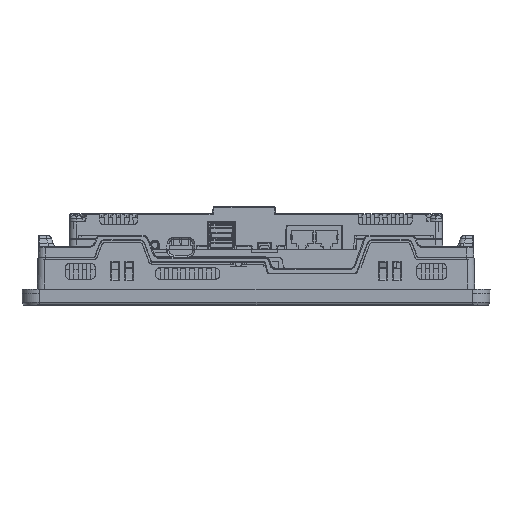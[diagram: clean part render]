
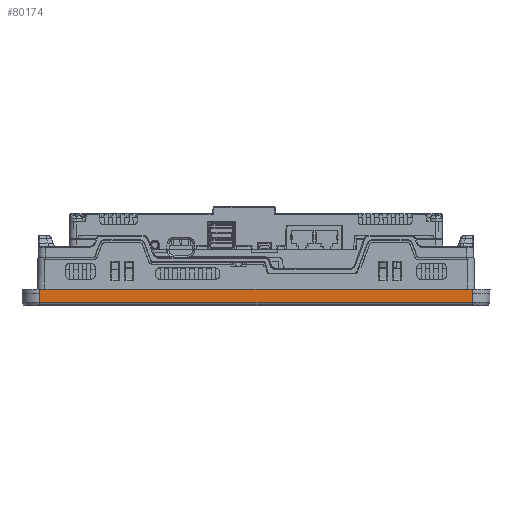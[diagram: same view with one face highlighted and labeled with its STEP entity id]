
A CAD part, left-side view. The second image highlights one B-rep face of the part: STEP entity #80174.
In plain terms, the highlighted planar face has unit normal (-1, 0, -0.018).
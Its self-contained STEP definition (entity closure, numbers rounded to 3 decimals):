
#263 = VECTOR ( 'NONE', #45930, 1000. ) ;
#18484 = VECTOR ( 'NONE', #45988, 1000. ) ;
#45902 = LINE ( 'NONE', #45927, #263 ) ;
#45927 = CARTESIAN_POINT ( 'NONE',  ( -163.14, 115.731, -46.5 ) ) ;
#45930 = DIRECTION ( 'NONE',  ( 0., -1., 0. ) ) ;
#45983 = LINE ( 'NONE', #45986, #18484 ) ;
#45986 = CARTESIAN_POINT ( 'NONE',  ( -163.096, -129.272, -49. ) ) ;
#45988 = DIRECTION ( 'NONE',  ( 0.017, 0., -1. ) ) ;
#51452 = EDGE_CURVE ( 'NONE', #249776, #250530, #192237, .T. ) ;
#51481 = EDGE_CURVE ( 'NONE', #250530, #250106, #219305, .T. ) ;
#51512 = EDGE_CURVE ( 'NONE', #250106, #250045, #219432, .T. ) ;
#51520 = EDGE_CURVE ( 'NONE', #250547, #249776, #219517, .T. ) ;
#52907 = EDGE_CURVE ( 'NONE', #250547, #249822, #45902, .T. ) ;
#52923 = EDGE_CURVE ( 'NONE', #249822, #250045, #45983, .T. ) ;
#80174 = ADVANCED_FACE ( 'NONE', ( #133018 ), #133007, .T. ) ;
#84506 = ORIENTED_EDGE ( 'NONE', *, *, #51452, .T. ) ;
#84507 = ORIENTED_EDGE ( 'NONE', *, *, #51481, .T. ) ;
#84509 = ORIENTED_EDGE ( 'NONE', *, *, #51512, .T. ) ;
#84511 = ORIENTED_EDGE ( 'NONE', *, *, #52923, .F. ) ;
#84512 = ORIENTED_EDGE ( 'NONE', *, *, #52907, .F. ) ;
#84514 = ORIENTED_EDGE ( 'NONE', *, *, #51520, .T. ) ;
#107369 = AXIS2_PLACEMENT_3D ( 'NONE', #132998, #133024, #133027 ) ;
#132998 = CARTESIAN_POINT ( 'NONE',  ( -163.096, -139.27, -49. ) ) ;
#133007 = PLANE ( 'NONE',  #107369 ) ;
#133018 = FACE_OUTER_BOUND ( 'NONE', #146065, .T. ) ;
#133024 = DIRECTION ( 'NONE',  ( -1., 0., -0.017 ) ) ;
#133027 = DIRECTION ( 'NONE',  ( -0.017, 0., 1. ) ) ;
#146065 = EDGE_LOOP ( 'NONE', ( #84506, #84507, #84509, #84511, #84512, #84514 ) ) ;
#192237 = LINE ( 'NONE', #192439, #264570 ) ;
#192439 = CARTESIAN_POINT ( 'NONE',  ( -163.019, 115.654, -53.448 ) ) ;
#192456 = DIRECTION ( 'NONE',  ( 0.017, -0.017, -1. ) ) ;
#212353 = CARTESIAN_POINT ( 'NONE',  ( -163.096, -129.272, -49. ) ) ;
#212562 = CARTESIAN_POINT ( 'NONE',  ( -163.007, -129.183, -54.1 ) ) ;
#214001 = CARTESIAN_POINT ( 'NONE',  ( -163.007, 115.642, -54.1 ) ) ;
#214107 = CARTESIAN_POINT ( 'NONE',  ( -163.14, 115.731, -46.5 ) ) ;
#219305 = LINE ( 'NONE', #219308, #264598 ) ;
#219308 = CARTESIAN_POINT ( 'NONE',  ( -163.007, -129.157, -54.1 ) ) ;
#219310 = DIRECTION ( 'NONE',  ( 0., -1., 0. ) ) ;
#219432 = LINE ( 'NONE', #219453, #264633 ) ;
#219453 = CARTESIAN_POINT ( 'NONE',  ( -163.099, -129.275, -48.826 ) ) ;
#219485 = DIRECTION ( 'NONE',  ( -0.017, -0.017, 1. ) ) ;
#219517 = LINE ( 'NONE', #219522, #264639 ) ;
#219522 = CARTESIAN_POINT ( 'NONE',  ( -163.096, 115.731, -49. ) ) ;
#219524 = DIRECTION ( 'NONE',  ( 0.017, 0., -1. ) ) ;
#249776 = VERTEX_POINT ( 'NONE', #255226 ) ;
#249822 = VERTEX_POINT ( 'NONE', #255594 ) ;
#250045 = VERTEX_POINT ( 'NONE', #212353 ) ;
#250106 = VERTEX_POINT ( 'NONE', #212562 ) ;
#250530 = VERTEX_POINT ( 'NONE', #214001 ) ;
#250547 = VERTEX_POINT ( 'NONE', #214107 ) ;
#255226 = CARTESIAN_POINT ( 'NONE',  ( -163.096, 115.731, -49. ) ) ;
#255594 = CARTESIAN_POINT ( 'NONE',  ( -163.14, -129.272, -46.5 ) ) ;
#264570 = VECTOR ( 'NONE', #192456, 1000. ) ;
#264598 = VECTOR ( 'NONE', #219310, 1000. ) ;
#264633 = VECTOR ( 'NONE', #219485, 1000. ) ;
#264639 = VECTOR ( 'NONE', #219524, 1000. ) ;
